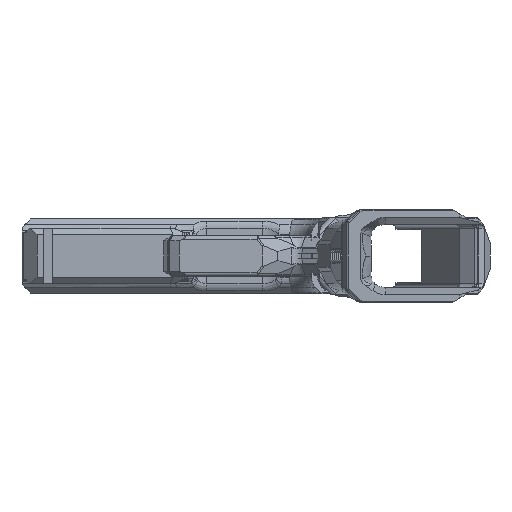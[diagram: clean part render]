
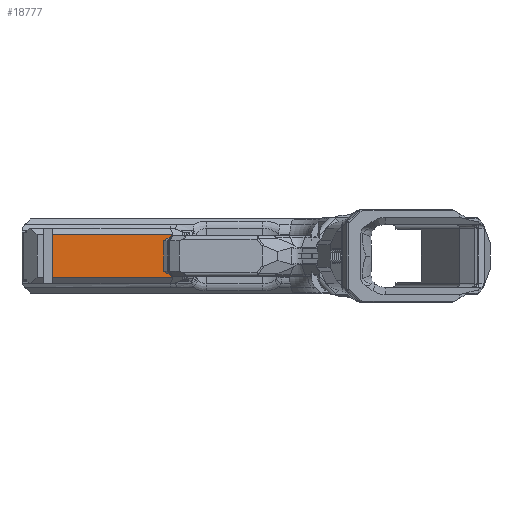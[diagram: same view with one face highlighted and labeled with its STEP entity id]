
A CAD part, front view. The second image highlights one B-rep face of the part: STEP entity #18777.
In plain terms, the highlighted planar face has unit normal (0, -1, 0).
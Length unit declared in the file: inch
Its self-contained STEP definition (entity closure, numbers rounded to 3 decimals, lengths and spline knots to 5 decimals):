
#379=PLANE('',#19827);
#1098=LINE('',#27307,#3286);
#1116=LINE('',#27345,#3304);
#1118=LINE('',#27349,#3306);
#1137=LINE('',#27430,#3325);
#1145=LINE('',#27468,#3333);
#1157=LINE('',#27553,#3345);
#1175=LINE('',#27591,#3363);
#1176=LINE('',#27594,#3364);
#1184=LINE('',#27610,#3372);
#1206=LINE('',#27690,#3394);
#3286=VECTOR('',#21328,0.3937);
#3304=VECTOR('',#21362,0.3937);
#3306=VECTOR('',#21366,0.3937);
#3325=VECTOR('',#21415,0.3937);
#3333=VECTOR('',#21447,0.3937);
#3345=VECTOR('',#21489,0.3937);
#3363=VECTOR('',#21517,0.3937);
#3364=VECTOR('',#21520,0.3937);
#3372=VECTOR('',#21532,0.3937);
#3394=VECTOR('',#21568,0.3937);
#5688=FACE_OUTER_BOUND('',#6678,.T.);
#6678=EDGE_LOOP('',(#13342,#13343,#13344,#13345,#13346,#13347,#13348,#13349,
#13350,#13351));
#8148=VERTEX_POINT('',#27304);
#8149=VERTEX_POINT('',#27306);
#8161=VERTEX_POINT('',#27344);
#8162=VERTEX_POINT('',#27348);
#8180=VERTEX_POINT('',#27427);
#8181=VERTEX_POINT('',#27429);
#8205=VERTEX_POINT('',#27552);
#8220=VERTEX_POINT('',#27589);
#8221=VERTEX_POINT('',#27593);
#8227=VERTEX_POINT('',#27609);
#10096=EDGE_CURVE('',#8148,#8149,#1098,.F.);
#10115=EDGE_CURVE('',#8161,#8149,#1116,.T.);
#10117=EDGE_CURVE('',#8161,#8162,#1118,.F.);
#10144=EDGE_CURVE('',#8181,#8180,#1137,.F.);
#10160=EDGE_CURVE('',#8181,#8148,#1145,.T.);
#10184=EDGE_CURVE('',#8205,#8162,#1157,.F.);
#10205=EDGE_CURVE('',#8220,#8180,#1175,.T.);
#10206=EDGE_CURVE('',#8205,#8221,#1176,.T.);
#10214=EDGE_CURVE('',#8227,#8221,#1184,.T.);
#10239=EDGE_CURVE('',#8220,#8227,#1206,.T.);
#13342=ORIENTED_EDGE('',*,*,#10205,.F.);
#13343=ORIENTED_EDGE('',*,*,#10239,.T.);
#13344=ORIENTED_EDGE('',*,*,#10214,.T.);
#13345=ORIENTED_EDGE('',*,*,#10206,.F.);
#13346=ORIENTED_EDGE('',*,*,#10184,.T.);
#13347=ORIENTED_EDGE('',*,*,#10117,.F.);
#13348=ORIENTED_EDGE('',*,*,#10115,.T.);
#13349=ORIENTED_EDGE('',*,*,#10096,.F.);
#13350=ORIENTED_EDGE('',*,*,#10160,.F.);
#13351=ORIENTED_EDGE('',*,*,#10144,.T.);
#18777=ADVANCED_FACE('',(#5688),#379,.T.);
#19827=AXIS2_PLACEMENT_3D('',#27689,#21566,#21567);
#21328=DIRECTION('',(0.834,0.,0.552));
#21362=DIRECTION('',(0.,0.,1.));
#21366=DIRECTION('',(-0.834,0.,0.552));
#21415=DIRECTION('',(0.851,0.,-0.525));
#21447=DIRECTION('',(-1.,0.,0.));
#21489=DIRECTION('',(1.,0.,0.));
#21517=DIRECTION('',(1.,0.,0.));
#21520=DIRECTION('',(-0.851,0.,-0.525));
#21532=DIRECTION('',(1.,0.,0.));
#21566=DIRECTION('center_axis',(0.,-1.,0.));
#21567=DIRECTION('ref_axis',(0.,0.,-1.));
#21568=DIRECTION('',(0.,0.,-1.));
#27304=CARTESIAN_POINT('',(-0.26465,-1.1775,0.3));
#27306=CARTESIAN_POINT('',(-0.37788,-1.1775,0.225));
#27307=CARTESIAN_POINT('',(-0.8121,-1.1775,-0.0626));
#27344=CARTESIAN_POINT('',(-0.37788,-1.1775,-0.225));
#27345=CARTESIAN_POINT('',(-0.37788,-1.1775,0.1595));
#27348=CARTESIAN_POINT('',(-0.26465,-1.1775,-0.3));
#27349=CARTESIAN_POINT('',(-0.95896,-1.1775,0.15987));
#27427=CARTESIAN_POINT('',(-0.23874,-1.1775,0.319));
#27429=CARTESIAN_POINT('',(-0.20792,-1.1775,0.3));
#27430=CARTESIAN_POINT('',(-0.95027,-1.1775,0.75766));
#27468=CARTESIAN_POINT('',(-0.58,-1.1775,0.3));
#27552=CARTESIAN_POINT('',(-0.20792,-1.1775,-0.3));
#27553=CARTESIAN_POINT('',(-0.58,-1.1775,-0.3));
#27589=CARTESIAN_POINT('',(-2.03623,-1.1775,0.319));
#27591=CARTESIAN_POINT('',(-1.62015,-1.1775,0.319));
#27593=CARTESIAN_POINT('',(-0.23874,-1.1775,-0.319));
#27594=CARTESIAN_POINT('',(-0.80777,-1.1775,-0.66981));
#27609=CARTESIAN_POINT('',(-2.03623,-1.1775,-0.319));
#27610=CARTESIAN_POINT('',(-2.499,-1.1775,-0.319));
#27689=CARTESIAN_POINT('Origin',(-2.499,-1.1775,0.319));
#27690=CARTESIAN_POINT('',(-2.03623,-1.1775,0.1595));
